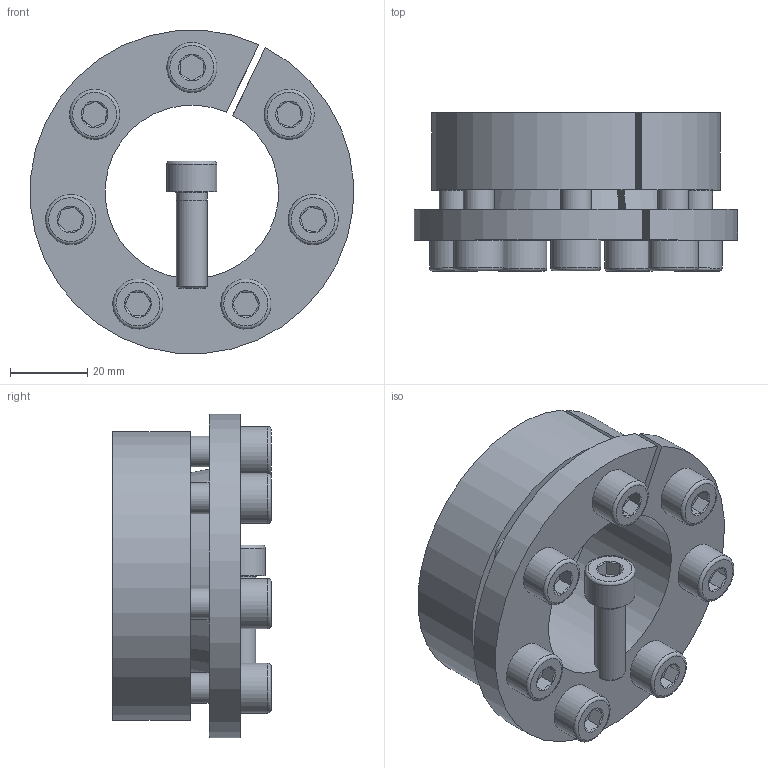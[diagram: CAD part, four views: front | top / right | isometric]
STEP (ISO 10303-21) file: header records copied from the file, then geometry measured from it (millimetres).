
FILE_DESCRIPTION( ( 'Unknown' ), '1' );
FILE_NAME( 'C:/Dokumente und Einstellungen/Sven/Desktop/homepage/cad - homepage/KBS16/KBS 16 - 45 x 75.stp', 'Unknown', ( 'Unknown' ), ( 'Unknown' ), 'XStep 1.0', 'Unknown', ' ' );
FILE_SCHEMA( ( 'automotive_design' ) );
Length unit declared in the file: millimetre
Products named in the file (3): Assem1; KBS 16 - 45 x 75; ISO EN DIN 4762 M8x25
Bounding box: 83.78 x 41 x 83.76 mm (x, y, z)
Volume: 179092.7 mm3; surface area: 67937.8 mm2
Topology: 10 solids, 10 shells, 252 faces, 502 edges, 302 vertices
Faces by surface type: plane 110, cylinder 66, cone 60, torus 16
Full cylindrical faces by diameter (mm): 7 x8, 8 x44, 13 x8
Entity records: 1708 total; most frequent: CARTESIAN_POINT 282, DIRECTION 258, ORIENTED_EDGE 186, AXIS2_PLACEMENT_3D 115, EDGE_LOOP 104, EDGE_CURVE 93, FACE_OUTER_BOUND 71, VERTEX_POINT 71
